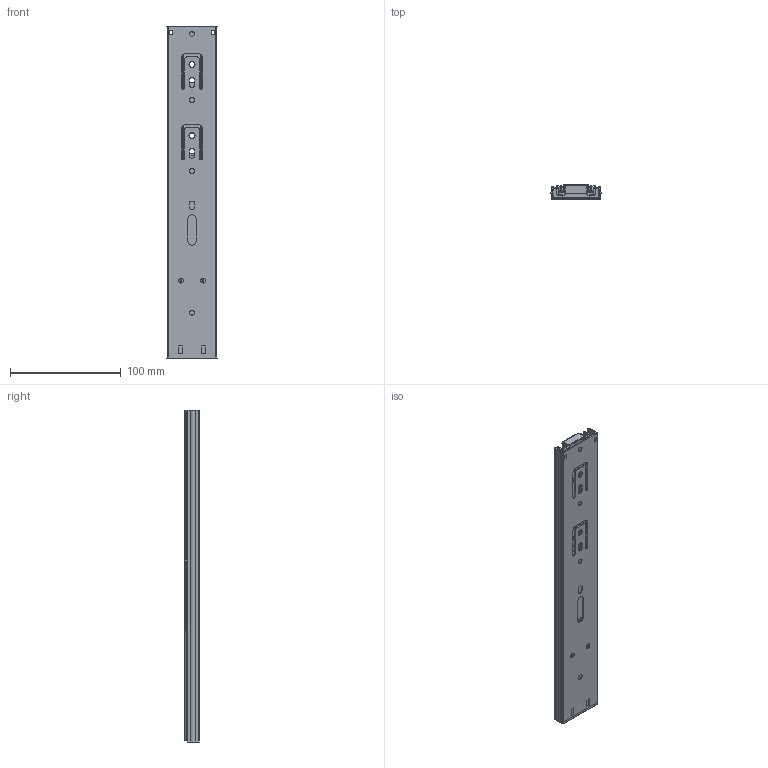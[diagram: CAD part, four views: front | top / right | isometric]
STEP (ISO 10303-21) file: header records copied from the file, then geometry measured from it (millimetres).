
FILE_DESCRIPTION(/* description */ (''),/* implementation_level */ '2;1');
FILE_NAME(/* name */ 'C:\Users\dmitruk\Documents\WORK\НАПРАВЛЯЮЩИЕ\Шариковые\Доводчик\h45 L-300 с доводчиком AKS.stp',/* time_stamp */ '2022-04-19T17:46:16+03:00',/* author */ ('dmitruk'),/* organization */ ('AKS'),/* preprocessor_version */ 'ST-DEVELOPER v16.5',/* originating_system */ 'Autodesk Inventor 2017',/* authorisation */ '');
FILE_SCHEMA (('AUTOMOTIVE_DESIGN { 1 0 10303 214 3 1 1 }'));
Length unit declared in the file: millimetre
Products named in the file (6): h45 L-300 с \X2\0434043E0432043E043404470438
043A043E043C\X0\ AKS; h45 L-300 AKS_11довод; h45 L-300 AKS_12довод; h45 L-250_13; h45 L-300 AKS_2довод; Доводчик
Assembly tree (5 placements, depth 2):
  h45 L-300 с \X2\0434043E0432043E043404470438
043A043E043C\X0\ AKS
    h45 L-300 AKS_11довод
    h45 L-300 AKS_12довод
    h45 L-250_13
    h45 L-300 AKS_2довод
    Доводчик
Bounding box: 45.28 x 13 x 300 mm (x, y, z)
Volume: 58944.2 mm3; surface area: 97073 mm2
Topology: 8 solids, 8 shells, 582 faces, 1684 edges, 1102 vertices
Faces by surface type: plane 344, cylinder 206, sphere 32
Full cylindrical faces by diameter (mm): 4.5 x10, 5.5 x2
Entity records: 19610 total; most frequent: CARTESIAN_POINT 3543, ORIENTED_EDGE 3338, DIRECTION 3332, EDGE_CURVE 1669, LINE 1156, VECTOR 1156, VERTEX_POINT 1099, AXIS2_PLACEMENT_3D 1088
